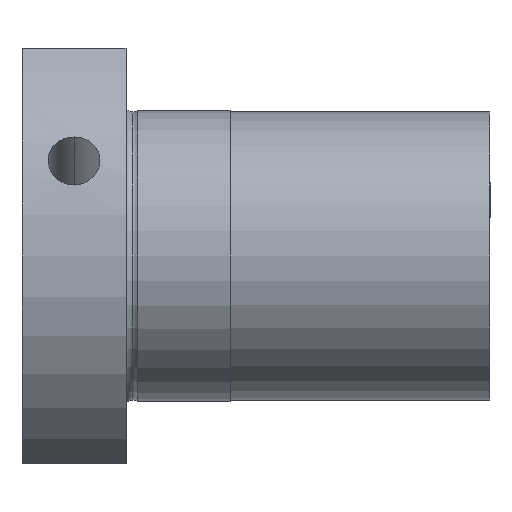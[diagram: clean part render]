
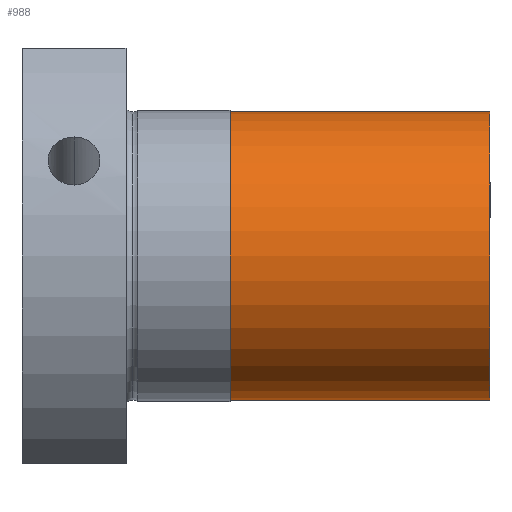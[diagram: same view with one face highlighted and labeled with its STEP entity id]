
A CAD part, front view. The second image highlights one B-rep face of the part: STEP entity #988.
In plain terms, the highlighted cylindrical face has radius 13.85 mm (diameter 27.7 mm), a partial arc.
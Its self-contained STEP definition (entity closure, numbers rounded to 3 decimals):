
#17 = ORIENTED_EDGE ( 'NONE', *, *, #2829, .T. ) ;
#190 = CARTESIAN_POINT ( 'NONE',  ( -61.309, 0., 0. ) ) ;
#266 = AXIS2_PLACEMENT_3D ( 'NONE', #663, #2287, #876 ) ;
#378 = CIRCLE ( 'NONE', #266, 13.85 ) ;
#430 = AXIS2_PLACEMENT_3D ( 'NONE', #2297, #880, #2550 ) ;
#447 = DIRECTION ( 'NONE',  ( -1., 0., 0. ) ) ;
#626 = CARTESIAN_POINT ( 'NONE',  ( -61.309, 0., -13.85 ) ) ;
#663 = CARTESIAN_POINT ( 'NONE',  ( -32., 0., 0. ) ) ;
#683 = AXIS2_PLACEMENT_3D ( 'NONE', #190, #2732, #2964 ) ;
#696 = CIRCLE ( 'NONE', #430, 13.85 ) ;
#876 = DIRECTION ( 'NONE',  ( 0., 0., 1. ) ) ;
#880 = DIRECTION ( 'NONE',  ( -1., 0., 0. ) ) ;
#988 = ADVANCED_FACE ( 'NONE', ( #2629 ), #2576, .T. ) ;
#1064 = VECTOR ( 'NONE', #447, 1000. ) ;
#1086 = VERTEX_POINT ( 'NONE', #1781 ) ;
#1088 = LINE ( 'NONE', #1364, #1064 ) ;
#1140 = EDGE_LOOP ( 'NONE', ( #2703, #17, #2562, #2769 ) ) ;
#1296 = DIRECTION ( 'NONE',  ( -1., 0., 0. ) ) ;
#1351 = CARTESIAN_POINT ( 'NONE',  ( -7., 0., -13.85 ) ) ;
#1364 = CARTESIAN_POINT ( 'NONE',  ( -61.309, 0., 13.85 ) ) ;
#1689 = EDGE_CURVE ( 'NONE', #2784, #2599, #1816, .T. ) ;
#1781 = CARTESIAN_POINT ( 'NONE',  ( -7., 0., 13.85 ) ) ;
#1816 = LINE ( 'NONE', #626, #1845 ) ;
#1836 = VERTEX_POINT ( 'NONE', #2062 ) ;
#1845 = VECTOR ( 'NONE', #1296, 1000. ) ;
#2062 = CARTESIAN_POINT ( 'NONE',  ( -32., 0., 13.85 ) ) ;
#2287 = DIRECTION ( 'NONE',  ( -1., 0., 0. ) ) ;
#2297 = CARTESIAN_POINT ( 'NONE',  ( -7., 0., 0. ) ) ;
#2339 = CARTESIAN_POINT ( 'NONE',  ( -32., 0., -13.85 ) ) ;
#2523 = EDGE_CURVE ( 'NONE', #1086, #1836, #1088, .T. ) ;
#2550 = DIRECTION ( 'NONE',  ( 0., 0., 1. ) ) ;
#2562 = ORIENTED_EDGE ( 'NONE', *, *, #2523, .T. ) ;
#2576 = CYLINDRICAL_SURFACE ( 'NONE', #683, 13.85 ) ;
#2599 = VERTEX_POINT ( 'NONE', #2339 ) ;
#2629 = FACE_OUTER_BOUND ( 'NONE', #1140, .T. ) ;
#2703 = ORIENTED_EDGE ( 'NONE', *, *, #1689, .F. ) ;
#2732 = DIRECTION ( 'NONE',  ( -1., 0., 0. ) ) ;
#2754 = EDGE_CURVE ( 'NONE', #2599, #1836, #378, .T. ) ;
#2769 = ORIENTED_EDGE ( 'NONE', *, *, #2754, .F. ) ;
#2784 = VERTEX_POINT ( 'NONE', #1351 ) ;
#2829 = EDGE_CURVE ( 'NONE', #2784, #1086, #696, .T. ) ;
#2964 = DIRECTION ( 'NONE',  ( 0., 0., 1. ) ) ;
